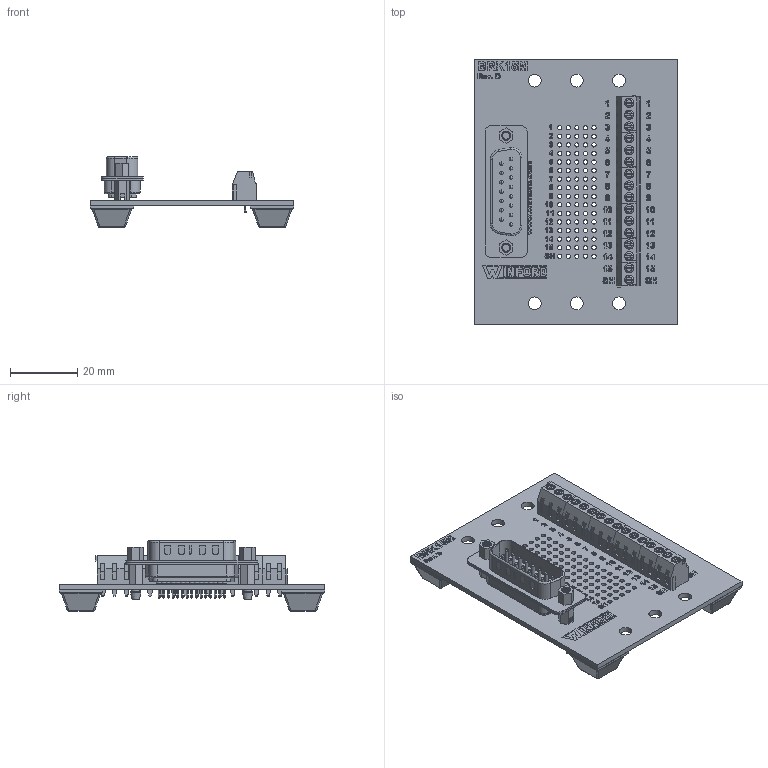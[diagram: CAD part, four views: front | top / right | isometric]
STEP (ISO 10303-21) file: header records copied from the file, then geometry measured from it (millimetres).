
FILE_DESCRIPTION (( 'STEP AP214' ), '1' );
FILE_NAME ('brk15m-s-ft_rev_d.STEP', '2020-12-04T14:57:13', ( '' ), ( '' ), 'SwSTEP 2.0', 'SolidWorks 2018', '' );
FILE_SCHEMA (( 'AUTOMOTIVE_DESIGN' ));
Length unit declared in the file: inch
Products named in the file (6): BRK15M Board; Screw Terminal 3; Male Straight 15 Pin; brk15m-s-ft_rev_d; Square Rubber Feet; Screw Terminal 2
Assembly tree (12 placements, depth 2):
  brk15m-s-ft_rev_d
    BRK15M Board
    Male Straight 15 Pin
    Screw Terminal 2  x2
    Screw Terminal 3  x4
    Square Rubber Feet  x4
Bounding box: 60.45 x 78.74 x 20.92 mm (x, y, z)
Volume: 12333 mm3; surface area: 20094.6 mm2
Topology: 41 solids, 63 shells, 3832 faces, 10097 edges, 6617 vertices
Faces by surface type: plane 2063, cylinder 908, bspline 739, sphere 46, cone 44, torus 32
Entity records: 148630 total; most frequent: CARTESIAN_POINT 53825, ORIENTED_EDGE 14448, DIRECTION 11211, EDGE_CURVE 7234, VERTEX_POINT 4788, VECTOR 4303, LINE 4303, AXIS2_PLACEMENT_3D 3454
